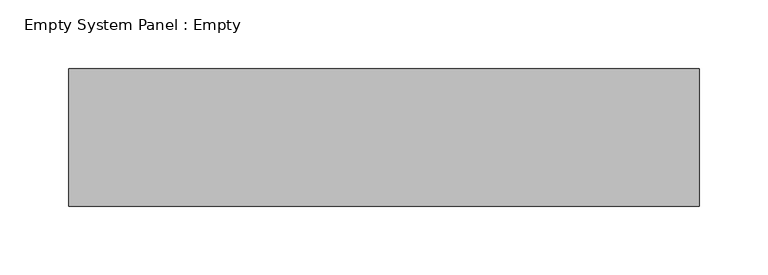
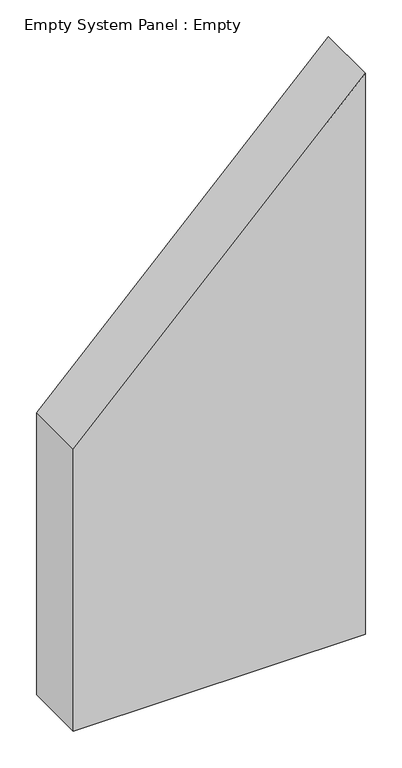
"""IFC4 building model written with IfcOpenShell, lengths in millimetres: plate geometry, Empty System Panel : Empty."""

from ifc_helpers import new_model, si_unit, frame, origin, place, context, project, spatial, polyline, outline, extrude, source, transform, mapped, element, save


def empty_system_panel_empty_315c37db(model_context):
    return source(origin(), model_context, "Body", "SweptSolid", [
        extrude(outline(polyline([(0.0, -229.6046705), (0.0, 229.6046705), (932.4788127, 229.6046705), (468.1321037, -229.6046705), (0.0, -229.6046705)])), frame((0.0, -50.0, 0.0), z_axis=(0.0, 1.0, 0.0), x_axis=(0.0, 0.0, 1.0)), (0.0, 0.0, 1.0), 100.0),
    ])


if __name__ == "__main__":
    model = new_model("IFC4")
    model_context = context("Model", 3, world=origin())
    ifc_project = project(units=[si_unit("LENGTHUNIT", "METRE", prefix="MILLI")], contexts=[model_context])
    site = spatial("IfcSite", under=ifc_project)
    building = spatial("IfcBuilding", under=site)
    placement = place(None, origin())
    empty_system_panel_empty_shape = empty_system_panel_empty_315c37db(model_context)
    element("IfcPlate", 1, ObjectType="Empty System Panel : Empty", at=placement, inside=building, context=model_context, shape_type="MappedRepresentation", body=[
        mapped(empty_system_panel_empty_shape, transform((0.0, 0.0, 0.0), x_axis=(1.0, 0.0, 0.0), y_axis=(0.0, 1.0, 0.0), z_axis=(0.0, 0.0, 1.0))),
    ])
    save(model, "model.ifc")
